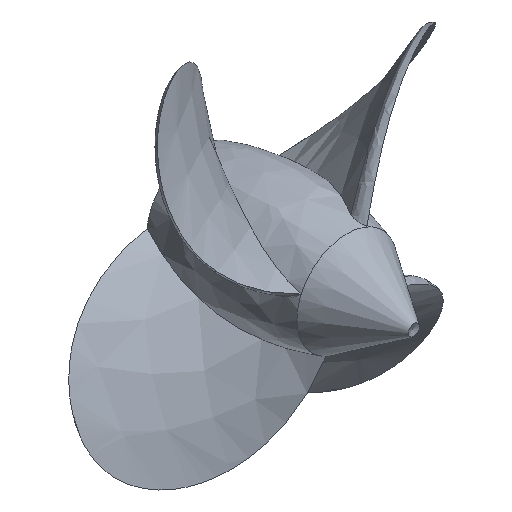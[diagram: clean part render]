
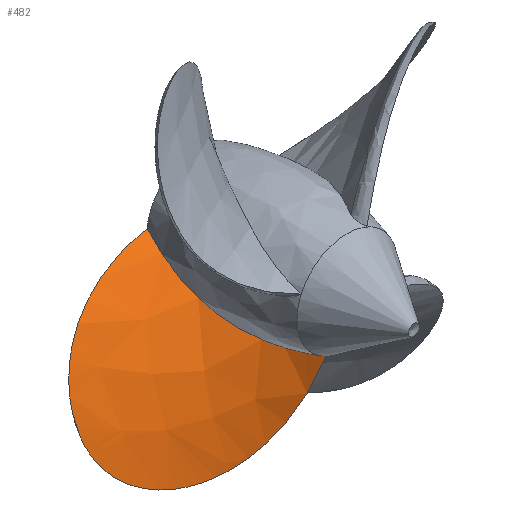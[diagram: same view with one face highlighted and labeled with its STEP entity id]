
A CAD part, isometric view. The second image highlights one B-rep face of the part: STEP entity #482.
In plain terms, the highlighted free-form (B-spline) face has degree [3, 3] with [4, 6] control points.
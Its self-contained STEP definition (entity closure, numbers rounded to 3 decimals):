
#57=B_SPLINE_SURFACE_WITH_KNOTS('',3,3,((#2249,#2250,#2251,#2252,#2253,
#2254),(#2255,#2256,#2257,#2258,#2259,#2260),(#2261,#2262,#2263,#2264,#2265,
#2266),(#2267,#2268,#2269,#2270,#2271,#2272)),.UNSPECIFIED.,.F.,.F.,.F.,
(4,4),(4,1,1,4),(0.498,3.478),(0.005,
0.361,0.718,1.252),.UNSPECIFIED.);
#80=FACE_OUTER_BOUND('',#107,.T.);
#107=EDGE_LOOP('',(#425,#426,#427));
#127=B_SPLINE_CURVE_WITH_KNOTS('',3,(#741,#742,#743,#744,#745,#746,#747,
#748,#749,#750),.UNSPECIFIED.,.F.,.F.,(4,2,2,2,4),(0.013,1.015,
2.135,2.715,3.28),.UNSPECIFIED.);
#153=B_SPLINE_CURVE_WITH_KNOTS('',3,(#1422,#1423,#1424,#1425,#1426,#1427,
#1428,#1429,#1430,#1431,#1432,#1433,#1434,#1435,#1436,#1437,#1438,#1439,
#1440,#1441,#1442,#1443,#1444,#1445),.UNSPECIFIED.,.F.,.F.,(4,2,2,2,2,2,
2,2,2,2,2,4),(0.937,1.708,2.812,3.621,
3.999,4.252,4.488,4.787,5.263,
5.7,6.141,6.521),.UNSPECIFIED.);
#161=B_SPLINE_CURVE_WITH_KNOTS('',3,(#1744,#1745,#1746,#1747,#1748,#1749,
#1750,#1751,#1752,#1753),.UNSPECIFIED.,.F.,.F.,(4,2,2,2,4),(0.004,
1.268,2.071,2.817,3.452),
 .UNSPECIFIED.);
#195=VERTEX_POINT('',#729);
#196=VERTEX_POINT('',#740);
#219=VERTEX_POINT('',#1421);
#249=EDGE_CURVE('',#195,#196,#127,.T.);
#275=EDGE_CURVE('',#196,#219,#153,.T.);
#283=EDGE_CURVE('',#195,#219,#161,.T.);
#425=ORIENTED_EDGE('',*,*,#275,.F.);
#426=ORIENTED_EDGE('',*,*,#249,.F.);
#427=ORIENTED_EDGE('',*,*,#283,.T.);
#482=ADVANCED_FACE('',(#80),#57,.T.);
#729=CARTESIAN_POINT('',(-9.989,29.89,0.954));
#740=CARTESIAN_POINT('',(-4.075,0.103,-9.167));
#741=CARTESIAN_POINT('Ctrl Pts',(-9.989,29.89,0.954));
#742=CARTESIAN_POINT('Ctrl Pts',(-11.024,26.961,-0.276));
#743=CARTESIAN_POINT('Ctrl Pts',(-11.535,24.03,-1.865));
#744=CARTESIAN_POINT('Ctrl Pts',(-11.314,17.512,-5.276));
#745=CARTESIAN_POINT('Ctrl Pts',(-10.442,14.179,-6.939));
#746=CARTESIAN_POINT('Ctrl Pts',(-8.358,8.921,-8.608));
#747=CARTESIAN_POINT('Ctrl Pts',(-7.533,7.141,-9.01));
#748=CARTESIAN_POINT('Ctrl Pts',(-5.804,3.589,-9.398));
#749=CARTESIAN_POINT('Ctrl Pts',(-4.919,1.853,-9.39));
#750=CARTESIAN_POINT('Ctrl Pts',(-4.075,0.103,-9.167));
#1421=CARTESIAN_POINT('',(-34.73,18.5,-17.028));
#1422=CARTESIAN_POINT('Ctrl Pts',(-4.075,0.103,-9.167));
#1423=CARTESIAN_POINT('Ctrl Pts',(-5.002,0.442,-11.525));
#1424=CARTESIAN_POINT('Ctrl Pts',(-5.996,0.882,-13.593));
#1425=CARTESIAN_POINT('Ctrl Pts',(-8.682,2.093,-18.107));
#1426=CARTESIAN_POINT('Ctrl Pts',(-10.597,2.977,-20.507));
#1427=CARTESIAN_POINT('Ctrl Pts',(-14.551,4.786,-23.836));
#1428=CARTESIAN_POINT('Ctrl Pts',(-16.399,5.629,-24.965));
#1429=CARTESIAN_POINT('Ctrl Pts',(-19.301,6.992,-26.063));
#1430=CARTESIAN_POINT('Ctrl Pts',(-20.247,7.443,-26.326));
#1431=CARTESIAN_POINT('Ctrl Pts',(-21.848,8.223,-26.608));
#1432=CARTESIAN_POINT('Ctrl Pts',(-22.494,8.544,-26.677));
#1433=CARTESIAN_POINT('Ctrl Pts',(-23.739,9.175,-26.724));
#1434=CARTESIAN_POINT('Ctrl Pts',(-24.337,9.484,-26.708));
#1435=CARTESIAN_POINT('Ctrl Pts',(-25.68,10.198,-26.578));
#1436=CARTESIAN_POINT('Ctrl Pts',(-26.419,10.605,-26.441));
#1437=CARTESIAN_POINT('Ctrl Pts',(-28.278,11.678,-25.914));
#1438=CARTESIAN_POINT('Ctrl Pts',(-29.359,12.352,-25.425));
#1439=CARTESIAN_POINT('Ctrl Pts',(-31.222,13.669,-24.179));
#1440=CARTESIAN_POINT('Ctrl Pts',(-32.013,14.304,-23.454));
#1441=CARTESIAN_POINT('Ctrl Pts',(-33.33,15.594,-21.758));
#1442=CARTESIAN_POINT('Ctrl Pts',(-33.839,16.235,-20.805));
#1443=CARTESIAN_POINT('Ctrl Pts',(-34.489,17.425,-18.896));
#1444=CARTESIAN_POINT('Ctrl Pts',(-34.668,17.967,-17.97));
#1445=CARTESIAN_POINT('Ctrl Pts',(-34.73,18.5,-17.028));
#1744=CARTESIAN_POINT('Ctrl Pts',(-9.989,29.89,0.954));
#1745=CARTESIAN_POINT('Ctrl Pts',(-14.179,29.425,0.74));
#1746=CARTESIAN_POINT('Ctrl Pts',(-19.206,28.579,0.135));
#1747=CARTESIAN_POINT('Ctrl Pts',(-26.674,26.277,-3.067));
#1748=CARTESIAN_POINT('Ctrl Pts',(-28.894,25.313,-4.645));
#1749=CARTESIAN_POINT('Ctrl Pts',(-32.092,23.43,-7.949));
#1750=CARTESIAN_POINT('Ctrl Pts',(-33.268,22.442,-9.784));
#1751=CARTESIAN_POINT('Ctrl Pts',(-34.591,20.448,-13.494));
#1752=CARTESIAN_POINT('Ctrl Pts',(-34.845,19.494,-15.272));
#1753=CARTESIAN_POINT('Ctrl Pts',(-34.73,18.5,-17.028));
#2249=CARTESIAN_POINT('Ctrl Pts',(-9.987,29.89,0.954));
#2250=CARTESIAN_POINT('Ctrl Pts',(-10.1,27.053,-0.233));
#2251=CARTESIAN_POINT('Ctrl Pts',(-9.899,21.379,-2.646));
#2252=CARTESIAN_POINT('Ctrl Pts',(-8.097,11.45,-6.485));
#2253=CARTESIAN_POINT('Ctrl Pts',(-5.709,4.358,-8.441));
#2254=CARTESIAN_POINT('Ctrl Pts',(-4.075,0.103,-9.167));
#2255=CARTESIAN_POINT('Ctrl Pts',(-19.918,29.89,0.908));
#2256=CARTESIAN_POINT('Ctrl Pts',(-20.026,27.053,-1.459));
#2257=CARTESIAN_POINT('Ctrl Pts',(-19.388,21.379,-6.228));
#2258=CARTESIAN_POINT('Ctrl Pts',(-15.433,11.45,-13.672));
#2259=CARTESIAN_POINT('Ctrl Pts',(-10.5,4.358,-17.318));
#2260=CARTESIAN_POINT('Ctrl Pts',(-7.185,0.103,-18.599));
#2261=CARTESIAN_POINT('Ctrl Pts',(-29.849,29.89,0.862));
#2262=CARTESIAN_POINT('Ctrl Pts',(-29.952,27.053,-2.685));
#2263=CARTESIAN_POINT('Ctrl Pts',(-28.877,21.379,-9.811));
#2264=CARTESIAN_POINT('Ctrl Pts',(-22.769,11.45,-20.859));
#2265=CARTESIAN_POINT('Ctrl Pts',(-15.291,4.358,-26.196));
#2266=CARTESIAN_POINT('Ctrl Pts',(-10.295,0.103,-28.031));
#2267=CARTESIAN_POINT('Ctrl Pts',(-39.78,29.89,0.816));
#2268=CARTESIAN_POINT('Ctrl Pts',(-39.877,27.053,-3.911));
#2269=CARTESIAN_POINT('Ctrl Pts',(-38.366,21.379,-13.394));
#2270=CARTESIAN_POINT('Ctrl Pts',(-30.104,11.45,-28.046));
#2271=CARTESIAN_POINT('Ctrl Pts',(-20.082,4.358,-35.074));
#2272=CARTESIAN_POINT('Ctrl Pts',(-13.404,0.103,-37.463));
